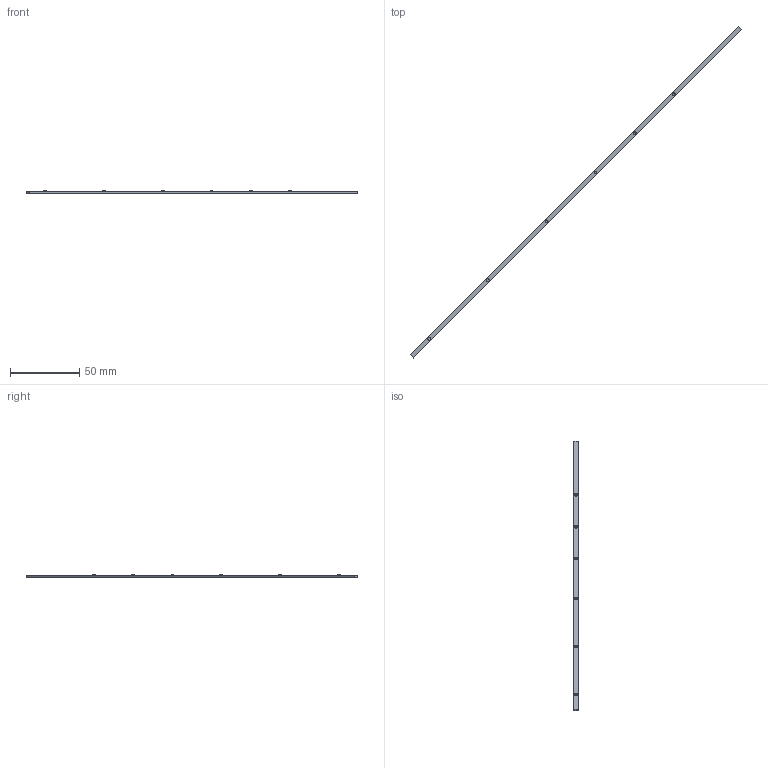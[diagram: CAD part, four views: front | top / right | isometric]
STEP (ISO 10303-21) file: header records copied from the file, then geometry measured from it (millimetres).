
FILE_DESCRIPTION(('Open CASCADE Model'),'2;1');
FILE_NAME('Open CASCADE Shape Model','2026-10-27T10:00:43',('Author'),( 'Open CASCADE'),'Open CASCADE STEP processor 8.0','build123d', 'Unknown');
FILE_SCHEMA(('AUTOMOTIVE_DESIGN { 1 0 10303 214 1 1 1 1 }'));
Length unit declared in the file: millimetre
Products named in the file (2): =>[0:1:1:2]; COMPOUND
Assembly tree (1 placements, depth 2):
  =>[0:1:1:2]
    COMPOUND
Bounding box: 239.92 x 239.92 x 2.3 mm (x, y, z)
Volume: 1827.9 mm3; surface area: 3465.1 mm2
Topology: 1 solids, 1 shells, 18 faces, 30 edges, 20 vertices
Faces by surface type: plane 12, cylinder 6
Full cylindrical faces by diameter (mm): 2 x6
Entity records: 844 total; most frequent: DIRECTION 142, CARTESIAN_POINT 130, LINE 66, VECTOR 66, ORIENTED_EDGE 60, PCURVE 60, DEFINITIONAL_REPRESENTATION 60, AXIS2_PLACEMENT_3D 32
